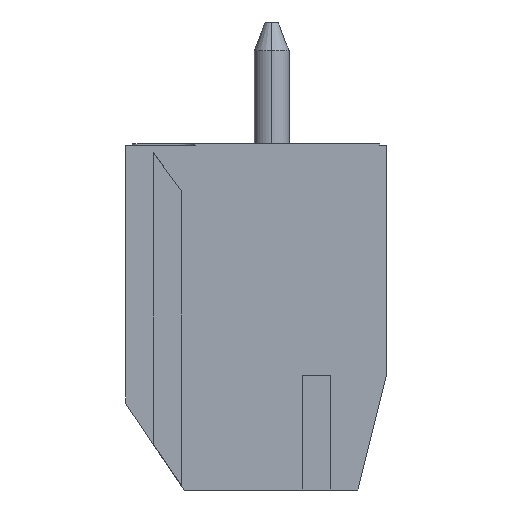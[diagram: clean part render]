
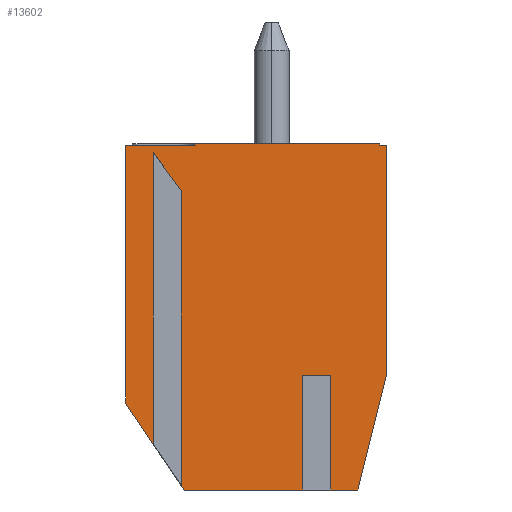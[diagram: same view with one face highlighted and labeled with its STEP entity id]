
A CAD part, left-side view. The second image highlights one B-rep face of the part: STEP entity #13602.
In plain terms, the highlighted planar face has unit normal (-1, 0, 0).
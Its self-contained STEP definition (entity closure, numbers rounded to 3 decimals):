
#209=DIRECTION('',(0.,0.591,0.806));
#210=VECTOR('',#209,1.353);
#211=CARTESIAN_POINT('',(-7.5,2.15,-1.295));
#212=LINE('',#211,#210);
#213=DIRECTION('',(0.,0.559,0.829));
#214=VECTOR('',#213,1.431);
#215=CARTESIAN_POINT('',(-7.5,2.95,-8.586));
#216=LINE('',#215,#214);
#217=DIRECTION('',(0.,-1.,0.));
#218=VECTOR('',#217,2.);
#219=CARTESIAN_POINT('',(-7.5,3.75,0.));
#220=LINE('',#219,#218);
#221=DIRECTION('',(0.,-1.,0.));
#222=VECTOR('',#221,5.3);
#223=CARTESIAN_POINT('',(-7.5,1.75,0.05));
#224=LINE('',#223,#222);
#225=DIRECTION('',(0.,0.,-1.));
#226=VECTOR('',#225,0.05);
#227=CARTESIAN_POINT('',(-7.5,-3.55,0.05));
#228=LINE('',#227,#226);
#229=DIRECTION('',(0.,-1.,0.));
#230=VECTOR('',#229,0.2);
#231=CARTESIAN_POINT('',(-7.5,-3.55,0.));
#232=LINE('',#231,#230);
#233=DIRECTION('',(0.,0.242,-0.97));
#234=VECTOR('',#233,3.401);
#235=CARTESIAN_POINT('',(-7.5,-3.75,-6.6));
#236=LINE('',#235,#234);
#237=DIRECTION('',(0.,0.559,0.829));
#238=VECTOR('',#237,0.154);
#239=CARTESIAN_POINT('',(-7.5,2.064,-9.9));
#240=LINE('',#239,#238);
#241=DIRECTION('',(0.,0.,-1.));
#242=VECTOR('',#241,8.477);
#243=CARTESIAN_POINT('',(-7.5,2.15,-1.295));
#244=LINE('',#243,#242);
#257=DIRECTION('',(0.,-1.,0.));
#258=VECTOR('',#257,3.414);
#259=CARTESIAN_POINT('',(-7.5,2.064,-9.9));
#260=LINE('',#259,#258);
#269=DIRECTION('',(0.,-1.,0.));
#270=VECTOR('',#269,0.777);
#271=CARTESIAN_POINT('',(-7.5,-2.15,-9.9));
#272=LINE('',#271,#270);
#327=DIRECTION('',(0.,0.,1.));
#328=VECTOR('',#327,3.3);
#329=CARTESIAN_POINT('',(-7.5,-1.35,-9.9));
#330=LINE('',#329,#328);
#331=DIRECTION('',(0.,-1.,0.));
#332=VECTOR('',#331,0.8);
#333=CARTESIAN_POINT('',(-7.5,-1.35,-6.6));
#334=LINE('',#333,#332);
#343=DIRECTION('',(0.,0.,-1.));
#344=VECTOR('',#343,3.3);
#345=CARTESIAN_POINT('',(-7.5,-2.15,-6.6));
#346=LINE('',#345,#344);
#383=DIRECTION('',(0.,0.,1.));
#384=VECTOR('',#383,6.6);
#385=CARTESIAN_POINT('',(-7.5,-3.75,-6.6));
#386=LINE('',#385,#384);
#876=DIRECTION('',(0.,0.,1.));
#877=VECTOR('',#876,8.382);
#878=CARTESIAN_POINT('',(-7.5,2.95,-8.586));
#879=LINE('',#878,#877);
#7834=DIRECTION('',(0.,0.,-1.));
#7835=VECTOR('',#7834,7.4);
#7836=CARTESIAN_POINT('',(-7.5,3.75,0.));
#7837=LINE('',#7836,#7835);
#11091=DIRECTION('',(0.,0.,-1.));
#11092=VECTOR('',#11091,0.05);
#11093=CARTESIAN_POINT('',(-7.5,1.75,0.05));
#11094=LINE('',#11093,#11092);
#11521=CARTESIAN_POINT('',(-7.5,3.75,0.));
#11522=CARTESIAN_POINT('',(-7.5,1.75,0.));
#11523=VERTEX_POINT('',#11521);
#11524=VERTEX_POINT('',#11522);
#11631=CARTESIAN_POINT('',(-7.5,-3.75,0.));
#11632=VERTEX_POINT('',#11631);
#11633=CARTESIAN_POINT('',(-7.5,-3.55,0.));
#11634=VERTEX_POINT('',#11633);
#11711=CARTESIAN_POINT('',(-7.5,-3.55,0.05));
#11712=VERTEX_POINT('',#11711);
#11713=CARTESIAN_POINT('',(-7.5,1.75,0.05));
#11714=VERTEX_POINT('',#11713);
#11763=CARTESIAN_POINT('',(-7.5,2.15,-1.295));
#11764=CARTESIAN_POINT('',(-7.5,2.15,-9.772));
#11765=VERTEX_POINT('',#11763);
#11766=VERTEX_POINT('',#11764);
#11767=CARTESIAN_POINT('',(-7.5,2.95,-0.205));
#11768=VERTEX_POINT('',#11767);
#11769=CARTESIAN_POINT('',(-7.5,2.95,-8.586));
#11770=VERTEX_POINT('',#11769);
#11771=CARTESIAN_POINT('',(-7.5,3.75,-7.4));
#11772=VERTEX_POINT('',#11771);
#11773=CARTESIAN_POINT('',(-7.5,-3.75,-6.6));
#11774=CARTESIAN_POINT('',(-7.5,-2.927,-9.9));
#11775=VERTEX_POINT('',#11773);
#11776=VERTEX_POINT('',#11774);
#11777=CARTESIAN_POINT('',(-7.5,-2.15,-9.9));
#11778=VERTEX_POINT('',#11777);
#11779=CARTESIAN_POINT('',(-7.5,-2.15,-6.6));
#11780=VERTEX_POINT('',#11779);
#11781=CARTESIAN_POINT('',(-7.5,-1.35,-6.6));
#11782=VERTEX_POINT('',#11781);
#11783=CARTESIAN_POINT('',(-7.5,-1.35,-9.9));
#11784=VERTEX_POINT('',#11783);
#11785=CARTESIAN_POINT('',(-7.5,2.064,-9.9));
#11786=VERTEX_POINT('',#11785);
#13561=CARTESIAN_POINT('',(-7.5,0.,-4.925));
#13562=DIRECTION('',(1.,0.,0.));
#13563=DIRECTION('',(0.,-1.,0.));
#13564=AXIS2_PLACEMENT_3D('',#13561,#13562,#13563);
#13565=PLANE('',#13564);
#13567=ORIENTED_EDGE('',*,*,#13566,.F.);
#13569=ORIENTED_EDGE('',*,*,#13568,.T.);
#13571=ORIENTED_EDGE('',*,*,#13570,.F.);
#13573=ORIENTED_EDGE('',*,*,#13572,.T.);
#13575=ORIENTED_EDGE('',*,*,#13574,.F.);
#13576=ORIENTED_EDGE('',*,*,#13366,.T.);
#13578=ORIENTED_EDGE('',*,*,#13577,.F.);
#13580=ORIENTED_EDGE('',*,*,#13579,.T.);
#13582=ORIENTED_EDGE('',*,*,#13581,.T.);
#13583=ORIENTED_EDGE('',*,*,#13476,.T.);
#13585=ORIENTED_EDGE('',*,*,#13584,.F.);
#13587=ORIENTED_EDGE('',*,*,#13586,.T.);
#13589=ORIENTED_EDGE('',*,*,#13588,.F.);
#13591=ORIENTED_EDGE('',*,*,#13590,.F.);
#13593=ORIENTED_EDGE('',*,*,#13592,.F.);
#13595=ORIENTED_EDGE('',*,*,#13594,.F.);
#13597=ORIENTED_EDGE('',*,*,#13596,.F.);
#13599=ORIENTED_EDGE('',*,*,#13598,.T.);
#13600=EDGE_LOOP('',(#13567,#13569,#13571,#13573,#13575,#13576,#13578,#13580,
#13582,#13583,#13585,#13587,#13589,#13591,#13593,#13595,#13597,#13599));
#13601=FACE_OUTER_BOUND('',#13600,.F.);
#13602=ADVANCED_FACE('',(#13601),#13565,.F.);
#13366=EDGE_CURVE('',#11523,#11524,#220,.T.);
#13476=EDGE_CURVE('',#11634,#11632,#232,.T.);
#13566=EDGE_CURVE('',#11765,#11766,#244,.T.);
#13568=EDGE_CURVE('',#11765,#11768,#212,.T.);
#13570=EDGE_CURVE('',#11770,#11768,#879,.T.);
#13572=EDGE_CURVE('',#11770,#11772,#216,.T.);
#13574=EDGE_CURVE('',#11523,#11772,#7837,.T.);
#13577=EDGE_CURVE('',#11714,#11524,#11094,.T.);
#13579=EDGE_CURVE('',#11714,#11712,#224,.T.);
#13581=EDGE_CURVE('',#11712,#11634,#228,.T.);
#13584=EDGE_CURVE('',#11775,#11632,#386,.T.);
#13586=EDGE_CURVE('',#11775,#11776,#236,.T.);
#13588=EDGE_CURVE('',#11778,#11776,#272,.T.);
#13590=EDGE_CURVE('',#11780,#11778,#346,.T.);
#13592=EDGE_CURVE('',#11782,#11780,#334,.T.);
#13594=EDGE_CURVE('',#11784,#11782,#330,.T.);
#13596=EDGE_CURVE('',#11786,#11784,#260,.T.);
#13598=EDGE_CURVE('',#11786,#11766,#240,.T.);
